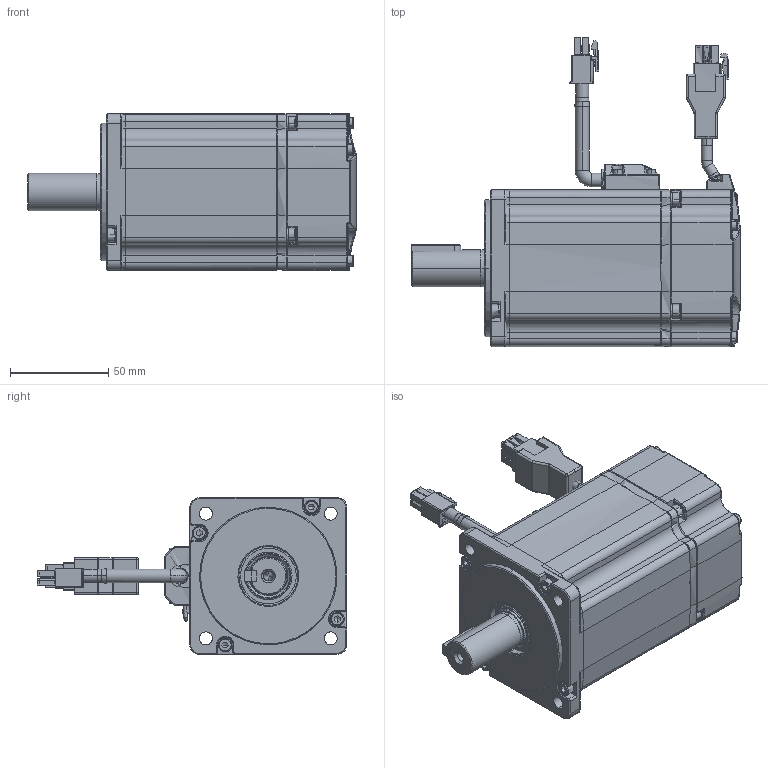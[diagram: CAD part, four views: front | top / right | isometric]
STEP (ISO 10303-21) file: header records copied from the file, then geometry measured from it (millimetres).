
FILE_DESCRIPTION (( 'STEP AP203' ), '1' );
FILE_NAME ('EM3A08A-100-A2-S（永磁交流伺服电机）.STEP', '2019-05-27T01:54:56', ( '' ), ( '' ), 'SwSTEP 2.0', 'SolidWorks 2018', '' );
FILE_SCHEMA (( 'CONFIG_CONTROL_DESIGN' ));
Length unit declared in the file: millimetre
Products named in the file (1): EM3A08A-100-A2-S（永磁交流伺服电机）
Bounding box: 167.5 x 157.81 x 80 mm (x, y, z)
Surface area: 78983.1 mm2 (no closed solid volume)
Topology: 0 solids, 33 shells, 1262 faces, 3243 edges, 1964 vertices
Faces by surface type: plane 468, cylinder 434, cone 127, torus 124, bspline 71, sphere 38
Entity records: 49593 total; most frequent: CARTESIAN_POINT 26646, ORIENTED_EDGE 5862, EDGE_CURVE 3151, B_SPLINE_CURVE_WITH_KNOTS 3084, DIRECTION 2384, VERTEX_POINT 1957, EDGE_LOOP 1380, FACE_OUTER_BOUND 1262
